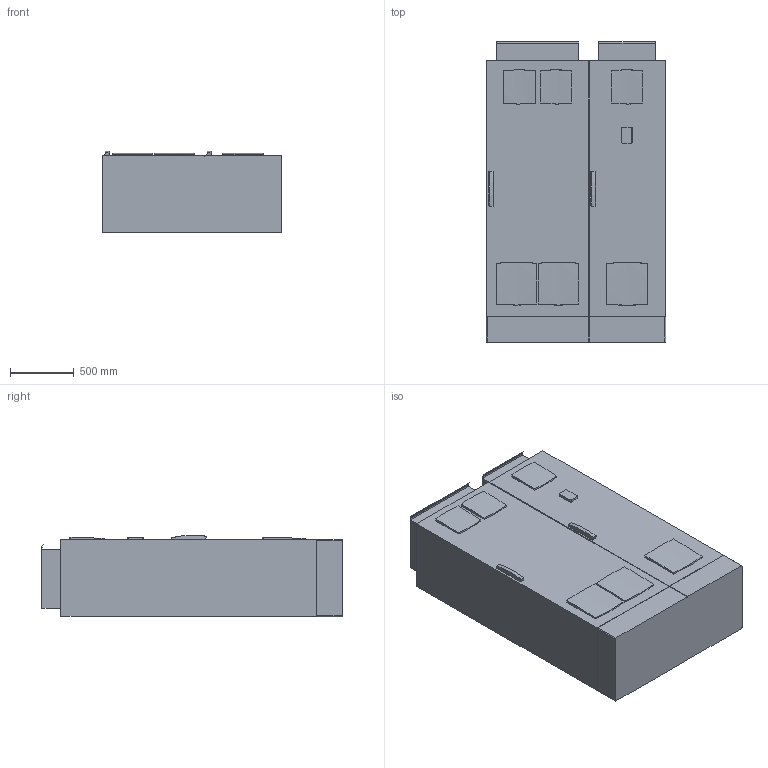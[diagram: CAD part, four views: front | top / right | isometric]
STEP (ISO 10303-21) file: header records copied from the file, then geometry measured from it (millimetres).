
FILE_DESCRIPTION(('STEP AP242'),'1');
FILE_NAME('atv660c71q4x1.stp','2021-09-28T08:43:40',('TraceParts'),('TraceParts S.A.'),'Spatial InterOp 3D',' ',' ');
FILE_SCHEMA(('AP242_MANAGED_MODEL_BASED_3D_ENGINEERING_MIM_LF {1 0 10303 442 1 1 4}'));
Length unit declared in the file: millimetre
Products named in the file (1): atv660c71q4x1_1
Bounding box: 1405 x 2352.5 x 639.18 mm (x, y, z)
Volume: 1936439272.6 mm3; surface area: 13054797.1 mm2
Topology: 2 solids, 2 shells, 109 faces, 289 edges, 193 vertices
Faces by surface type: plane 67, cylinder 32, revolution 6, bspline 4
Entity records: 3711 total; most frequent: CARTESIAN_POINT 1006, ORIENTED_EDGE 578, DIRECTION 514, EDGE_CURVE 289, VERTEX_POINT 193, LINE 182, VECTOR 182, AXIS2_PLACEMENT_3D 163
